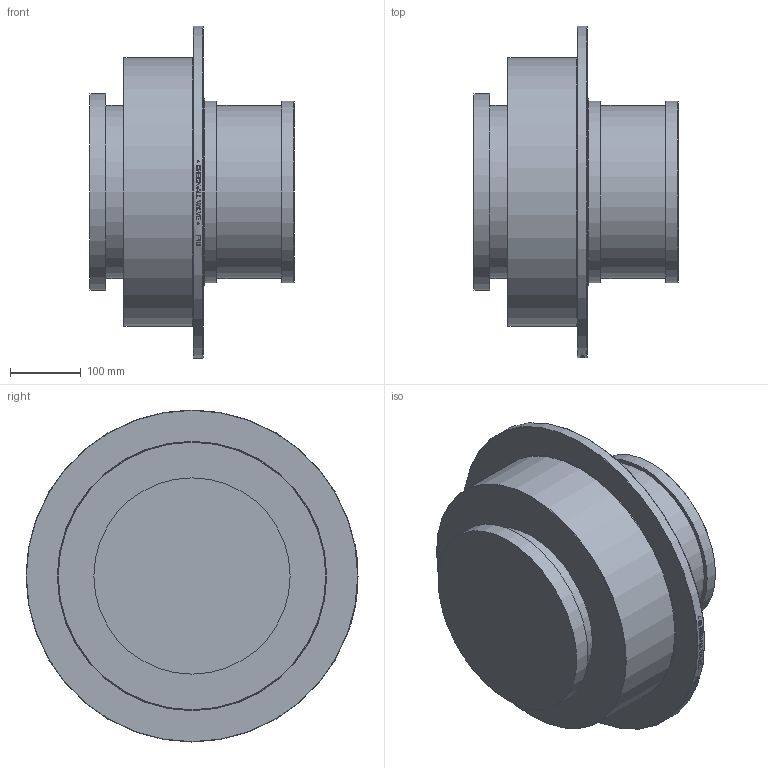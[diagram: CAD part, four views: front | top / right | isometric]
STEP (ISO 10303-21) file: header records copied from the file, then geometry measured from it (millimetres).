
FILE_DESCRIPTION( ( 'Unknown' ), '1' );
FILE_NAME( 'Y:/ENGR/3D Solid Edge Models/F1/F1 STEP/F1U.stp', 'Unknown', ( 'Unknown' ), ( 'Unknown' ), 'PSStep 14.0', 'Unknown', ' ' );
FILE_SCHEMA( ( 'AUTOMOTIVE_DESIGN { 1 0 10303 214 1 1 1 1 }' ) );
Length unit declared in the file: millimetre
Products named in the file (1): 1
Bounding box: 288.87 x 469.9 x 469.9 mm (x, y, z)
Volume: 22420545.6 mm3; surface area: 657756.2 mm2
Topology: 1 solids, 1 shells, 209 faces, 525 edges, 348 vertices
Faces by surface type: plane 127, bspline 45, cylinder 30, torus 4, cone 3
Full cylindrical faces by diameter (mm): 245.11 x2, 256.667 x2, 277.699 x1, 379.552 x1, 469.9 x1
Entity records: 10575 total; most frequent: CARTESIAN_POINT 5006, ORIENTED_EDGE 1022, EDGE_CURVE 511, B_SPLINE_CURVE_WITH_KNOTS 489, DIRECTION 374, VERTEX_POINT 348, EDGE_LOOP 253, FACE_OUTER_BOUND 220
